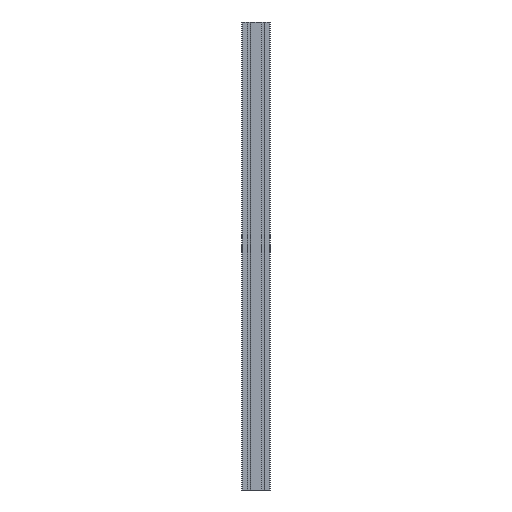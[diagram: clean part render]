
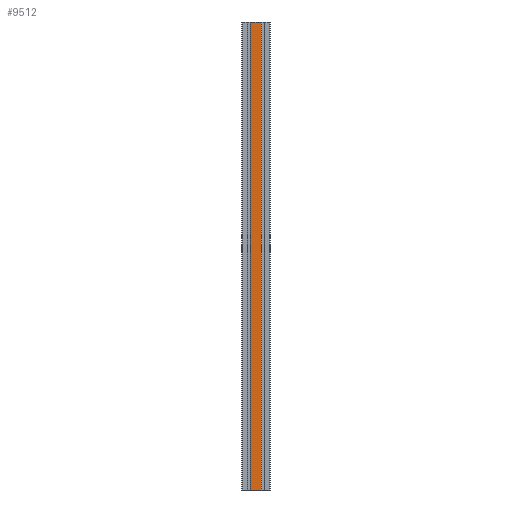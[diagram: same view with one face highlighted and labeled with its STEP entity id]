
A CAD part, front view. The second image highlights one B-rep face of the part: STEP entity #9512.
In plain terms, the highlighted planar face has unit normal (0, -1, 0).
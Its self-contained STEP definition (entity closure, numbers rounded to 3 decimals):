
#9454=CARTESIAN_POINT('',(281.35,155.,1000.0));
#9455=VERTEX_POINT('',#9454);
#9463=CARTESIAN_POINT('',(281.35,155.,0.0));
#9464=VERTEX_POINT('',#9463);
#9465=CARTESIAN_POINT('',(281.35,155.,0.0));
#9466=DIRECTION('',(0.0,0.0,1.0));
#9467=VECTOR('',#9466,1000.0);
#9468=LINE('',#9465,#9467);
#9469=EDGE_CURVE('',#9464,#9455,#9468,.T.);
#9482=CARTESIAN_POINT('',(281.35,155.,0.0));
#9483=DIRECTION('',(0.0,-1.0,0.0));
#9484=DIRECTION('',(0.0,0.0,-1.0));
#9485=AXIS2_PLACEMENT_3D('',#9482,#9483,#9484);
#9486=PLANE('',#9485);
#9487=CARTESIAN_POINT('',(258.65,155.,1000.0));
#9488=VERTEX_POINT('',#9487);
#9489=CARTESIAN_POINT('',(281.35,155.,1000.0));
#9490=DIRECTION('',(-1.0,0.0,0.0));
#9491=VECTOR('',#9490,22.7);
#9492=LINE('',#9489,#9491);
#9493=EDGE_CURVE('',#9455,#9488,#9492,.T.);
#9494=ORIENTED_EDGE('',*,*,#9493,.T.);
#9495=CARTESIAN_POINT('',(258.65,155.,0.0));
#9496=VERTEX_POINT('',#9495);
#9497=CARTESIAN_POINT('',(258.65,155.,0.0));
#9498=DIRECTION('',(0.0,0.0,1.0));
#9499=VECTOR('',#9498,1000.0);
#9500=LINE('',#9497,#9499);
#9501=EDGE_CURVE('',#9496,#9488,#9500,.T.);
#9502=ORIENTED_EDGE('',*,*,#9501,.F.);
#9503=CARTESIAN_POINT('',(258.65,155.,0.0));
#9504=DIRECTION('',(1.0,0.0,0.0));
#9505=VECTOR('',#9504,22.7);
#9506=LINE('',#9503,#9505);
#9507=EDGE_CURVE('',#9496,#9464,#9506,.T.);
#9508=ORIENTED_EDGE('',*,*,#9507,.T.);
#9509=ORIENTED_EDGE('',*,*,#9469,.T.);
#9510=EDGE_LOOP('',(#9494,#9502,#9508,#9509));
#9511=FACE_OUTER_BOUND('',#9510,.T.);
#9512=ADVANCED_FACE('',(#9511),#9486,.T.);
